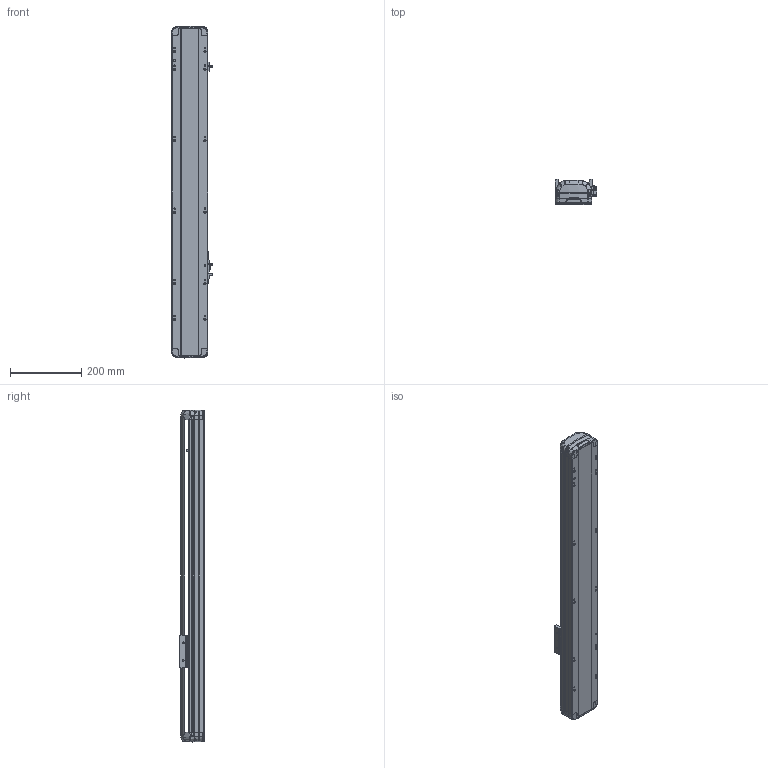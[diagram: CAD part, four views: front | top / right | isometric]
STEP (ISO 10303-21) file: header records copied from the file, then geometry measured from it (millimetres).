
FILE_DESCRIPTION (( 'STEP AP214' ), '1' );
FILE_NAME ('RTH10-XX-550-B-M10-C4.STEP', '2025-10-25T05:14:16', ( 'Microsoft' ), ( 'Microsoft' ), 'SwSTEP 2.0', 'SolidWorks 2018', '' );
FILE_SCHEMA (( 'AUTOMOTIVE_DESIGN' ));
Length unit declared in the file: millimetre
Products named in the file (7): N_RTH13-L-012覜茼え俋离^RTH10-XX-XX-B-M10-C4; N_RTH12-B-011P-臏倰第菁釱^RTH10-XX-XX-B-M10-C4; N_RTH12-GY-004-賑釱^RTH10-XX-XX-B-M10-C4; N_RTH12-GY-001P^RTH10-XX-XX-B-M10-C4; RTH10-XX-550-B-M10-C4; N_RTH12-B-007P-奻裔^RTH10-XX-XX-B-M10-C4; N_OMRON EE-SX672 传感器^RTH10-XX-XX-B-M10-C4
Assembly tree (9 placements, depth 2):
  RTH10-XX-550-B-M10-C4
    N_RTH12-B-011P-臏倰第菁釱^RTH10-XX-XX-B-M10-C4
    N_RTH13-L-012覜茼え俋离^RTH10-XX-XX-B-M10-C4
    N_OMRON EE-SX672 传感器^RTH10-XX-XX-B-M10-C4  x3
    N_RTH12-B-007P-奻裔^RTH10-XX-XX-B-M10-C4
    N_RTH12-GY-004-賑釱^RTH10-XX-XX-B-M10-C4
    N_RTH12-GY-001P^RTH10-XX-XX-B-M10-C4  x2
Bounding box: 116.5 x 70 x 929.29 mm (x, y, z)
Volume: 3501163 mm3; surface area: 576999.4 mm2
Topology: 7 solids, 11 shells, 2200 faces, 6166 edges, 4036 vertices
Faces by surface type: plane 1053, bspline 712, cylinder 415, cone 16, torus 4
Entity records: 49526 total; most frequent: CARTESIAN_POINT 21578, ORIENTED_EDGE 6460, DIRECTION 4534, EDGE_CURVE 3236, VERTEX_POINT 2123, VECTOR 1668, LINE 1668, AXIS2_PLACEMENT_3D 1433
